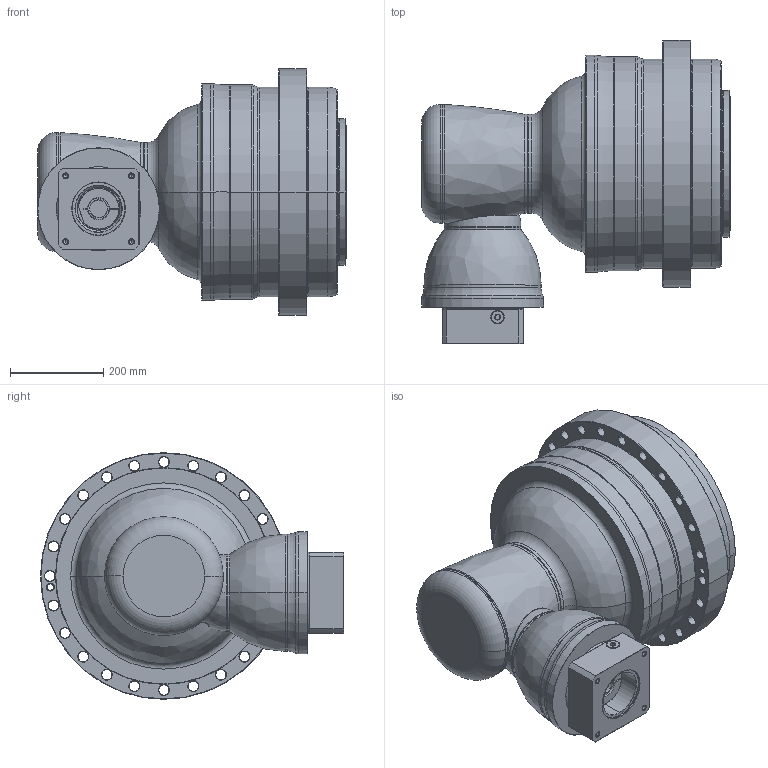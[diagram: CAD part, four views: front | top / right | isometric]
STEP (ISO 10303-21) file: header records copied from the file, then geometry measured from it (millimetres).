
FILE_DESCRIPTION((''),'2;1');
FILE_NAME('APK450_3ST_38-P0409910201_ASM','2018-11-21T',('D00080'),(''),'PRO/ENGINEER BY PARAMETRIC TECHNOLOGY CORPORATION, 2015240','PRO/ENGINEER BY PARAMETRIC TECHNOLOGY CORPORATION, 2015240','');
FILE_SCHEMA(('CONFIG_CONTROL_DESIGN'));
Length unit declared in the file: millimetre
Products named in the file (13): P1008700002; P1315700001; P1007701001; P1318701101; P1821200001; P0276201003; P0357201103; P1222200001; P0503900012; P0912751001; P0409910201; 21711422019; APK450_3ST_38-P0409910201_ASM
Assembly tree (12 placements, depth 2):
  APK450_3ST_38-P0409910201_ASM
    P1008700002
    P1315700001
    P1007701001
    P1318701101
    P1821200001
    P0276201003
    P0357201103
    P1222200001
    P0503900012
    P0912751001
    P0409910201
    21711422019
Bounding box: 663.5 x 651 x 530 mm (x, y, z)
Volume: 87529360 mm3; surface area: 3175238.3 mm2
Topology: 13 solids, 36 shells, 760 faces, 1720 edges, 1028 vertices
Faces by surface type: cylinder 296, cone 228, plane 121, torus 87, bspline 26, sphere 2
Entity records: 28861 total; most frequent: CARTESIAN_POINT 11158, DIRECTION 4078, ORIENTED_EDGE 3274, AXIS2_PLACEMENT_3D 1743, EDGE_CURVE 1684, VERTEX_POINT 1028, CIRCLE 972, EDGE_LOOP 906
